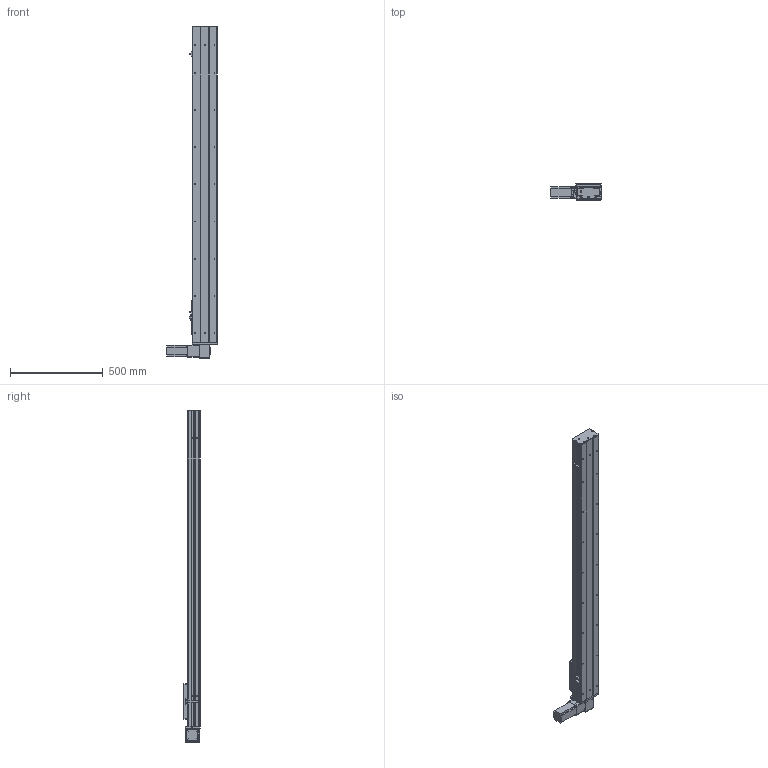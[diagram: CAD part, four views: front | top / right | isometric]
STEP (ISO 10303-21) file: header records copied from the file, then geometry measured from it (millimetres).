
FILE_DESCRIPTION (( 'STEP AP203' ), '1' );
FILE_NAME ('Y135CB-D90-S1400-BD-P400W.STEP', '2020-02-19T03:42:04', ( '微软用户' ), ( '微软中国' ), 'SwSTEP 2.0', 'SolidWorks 2017', '' );
FILE_SCHEMA (( 'CONFIG_CONTROL_DESIGN' ));
Length unit declared in the file: millimetre
Products named in the file (16): 5C--俋欶; 0B-埴倛裔啣; 0B-源倛裔啣; C-雄赽釱--; san松下电机400不带刹车----; Y10B--々湍喘謫眊--666; 5CB --掛极耜裔啣-; 0B-薊粣ん眊; Y135CB-D90-S1400-BD-P400W; C-詩湍揤踡え-陔; 135CB--詩湍-CE; Y135CB-耜裔; Y100-135俋离換覜ん--; 135CB---遴掛极.-; Y135C-陔俋离換覜結え-; 35CB---喘謫眊楊擘啣
Assembly tree (19 placements, depth 2):
  Y135CB-D90-S1400-BD-P400W
    Y135CB-耜裔
    135CB---遴掛极.-
    35CB---喘謫眊楊擘啣
    0B-埴倛裔啣
    0B-源倛裔啣
    san松下电机400不带刹车----
    5CB --掛极耜裔啣-  x2
    C-詩湍揤踡え-陔  x2
    135CB--詩湍-CE
    Y100-135俋离換覜ん--  x3
    Y135C-陔俋离換覜結え-
    5C--俋欶
    C-雄赽釱--
    Y10B--々湍喘謫眊--666
    0B-薊粣ん眊
Bounding box: 272 x 91 x 1788 mm (x, y, z)
Volume: 5425556.9 mm3; surface area: 2089506.3 mm2
Topology: 19 solids, 19 shells, 863 faces, 2302 edges, 1524 vertices
Faces by surface type: cylinder 432, plane 415, cone 16
Entity records: 26410 total; most frequent: DIRECTION 4402, CARTESIAN_POINT 4335, ORIENTED_EDGE 4080, EDGE_CURVE 2040, AXIS2_PLACEMENT_3D 1615, VERTEX_POINT 1352, VECTOR 1172, LINE 1172
